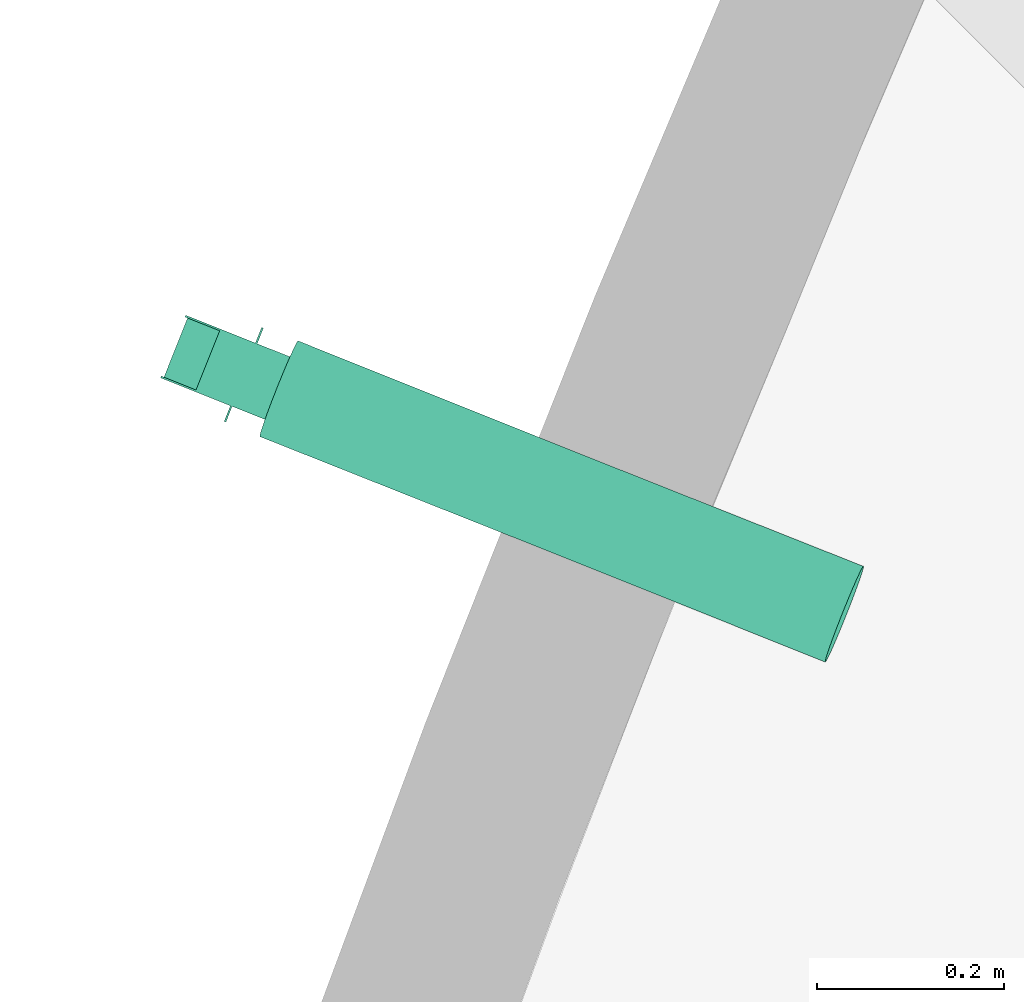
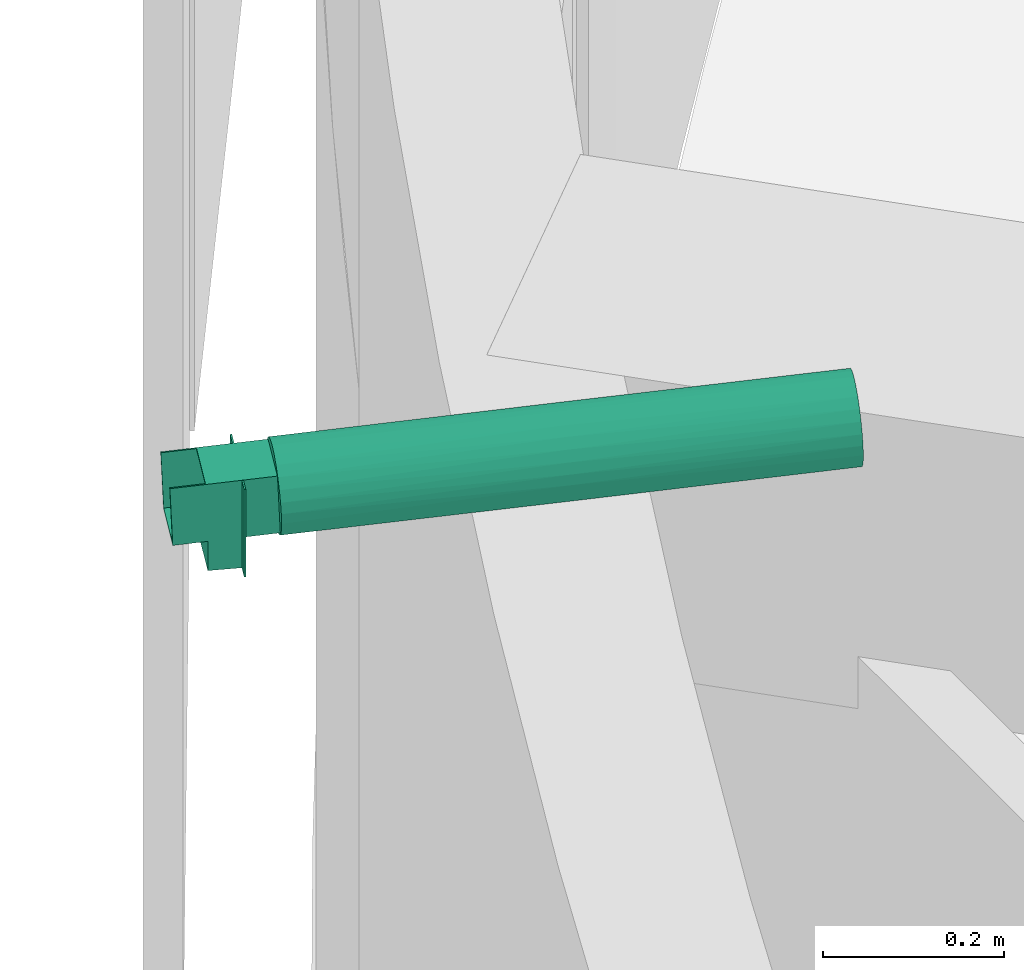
# One storey, part 26 of 26: 1 pipe fitting.
"""IFC4X3_ADD2 building model written with IfcOpenShell, lengths in millimetres."""

from ifc_helpers import new_model, si_unit, direction, frame, origin_with_axes, place, context, subcontext, project, spatial, polygons, source, transform, mapped, element, save


model = new_model("IFC4X3_ADD2")

# Units and contexts
model_context = context("Model", 3, precision=1e-05, world=origin_with_axes(), true_north=direction((0.0, 1.0)))
body_context = subcontext(model_context, "Body", "Model", "MODEL_VIEW")
ifc_project = project(units=[si_unit("LENGTHUNIT", "METRE", prefix="MILLI"), si_unit("AREAUNIT", "SQUARE_METRE"), si_unit("VOLUMEUNIT", "CUBIC_METRE"), si_unit("PLANEANGLEUNIT", "RADIAN"), si_unit("TIMEUNIT", "SECOND"), si_unit("MASSUNIT", "GRAM")], contexts=[model_context])

# Site, building, storey
site_placement = place(None, origin_with_axes())
site = spatial("IfcSite", under=ifc_project, at=site_placement, Name="Site", CompositionType="ELEMENT")
building_placement = place(site_placement, origin_with_axes())
building = spatial("IfcBuilding", under=site, at=building_placement, Name="IFC Building Story")
storey_placement = place(building_placement, frame((0.0, 0.0, 7200.0), z_axis=(0.0, 0.0, 1.0), x_axis=(1.0, 0.0, 0.0)))
storey = spatial("IfcBuildingStorey", under=building, at=storey_placement, Name="020", Elevation=7200.0)

# Pipe fitting
shared_shape = source(origin_with_axes(), body_context, "Body", "Tessellation", [
    polygons([(2.59527223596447, 80.2423912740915, 117.667377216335), (2.59527223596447, 80.2423912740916, 3.79003495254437e-11), (20.5952722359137, 80.2423912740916, 7.30935312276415e-11), (20.5952722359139, 80.2423912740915, 41.0150039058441), (20.5952722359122, 80.2423912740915, 117.667377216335), (2.59527223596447, 82.2423912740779, 117.667377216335), (2.59527223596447, 82.2423912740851, 7.30935312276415e-11), (110.595272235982, 82.2423912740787, 0.0), (110.595272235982, 82.2423912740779, 117.667377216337), (110.595272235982, 80.2423912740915, 117.667377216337), (110.595272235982, 80.2423912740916, 0.0), (92.5952722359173, 82.2423912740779, 117.667377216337), (92.5952722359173, 80.2423912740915, 117.667377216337), (92.5952722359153, 82.2423912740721, 41.0983372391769), (92.5952722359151, 80.2423912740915, 41.0150039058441), (20.5952722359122, 82.2423912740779, 117.667377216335), (20.5952722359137, 82.2423912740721, 41.0983372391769), (20.5952722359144, 42.2423912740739, 1.12618181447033e-10), (20.5952722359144, 42.2423912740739, 39.4316705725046), (92.5952722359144, 42.2423912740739, 39.4316705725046), (92.5952722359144, 42.2423912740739, 1.12618181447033e-10), (92.5952722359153, 80.2423912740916, 7.25520976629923e-11), (22.5952722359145, 82.2423912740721, 41.0983372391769), (22.5952722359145, 82.2423912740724, 1.08286712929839e-10), (22.5952722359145, 44.2423912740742, 9.3668006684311e-11), (90.5952722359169, 44.2423912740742, 9.3668006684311e-11), (90.5952722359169, 82.2423912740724, 1.08286712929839e-10), (90.5952722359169, 82.2423912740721, 41.0983372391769), (90.5952722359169, 44.2423912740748, 39.5150039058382), (22.5952722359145, 44.2423912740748, 39.5150039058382)], [[[4, 5, 1]], [[4, 1, 2]], [[2, 3, 4]], [[6, 7, 2, 1]], [[8, 9, 10, 11]], [[9, 12, 13, 10]], [[13, 12, 14, 15]], [[16, 5, 4, 17]], [[16, 6, 1, 5]], [[18, 19, 4, 3]], [[20, 21, 22, 15]], [[19, 18, 21, 20]], [[17, 23, 24]], [[17, 24, 7]], [[7, 6, 16]], [[7, 16, 17]], [[3, 2, 7]], [[3, 7, 24]], [[22, 21, 26]], [[22, 26, 27]], [[27, 8, 11]], [[27, 11, 22]], [[21, 18, 25]], [[21, 25, 26]], [[18, 3, 24]], [[18, 24, 25]], [[15, 14, 28]], [[4, 19, 30]], [[4, 30, 23]], [[23, 17, 4]], [[19, 20, 29]], [[19, 29, 30]], [[20, 15, 28]], [[20, 28, 29]], [[26, 29, 28, 27]], [[30, 25, 24, 23]], [[29, 26, 25, 30]], [[14, 12, 9]], [[14, 9, 8]], [[8, 27, 14]], [[27, 28, 14]], [[15, 22, 11]], [[11, 10, 13]], [[11, 13, 15]]]),
    polygons([(3.46935179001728, 121.008650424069, 95.458033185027), (1.59527223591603, 121.601263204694, 81.235326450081), (3.46935179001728, 122.193875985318, 67.012619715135), (8.9638750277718, 122.746103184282, 53.7591669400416), (17.7043992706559, 123.220311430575, 42.3781690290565), (29.0952722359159, 123.584184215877, 33.6452221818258), (42.3602247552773, 123.812924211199, 28.1554622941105), (56.5952722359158, 123.89094316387, 26.283007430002), (70.8303197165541, 123.812924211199, 28.1554622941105), (84.0952722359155, 123.584184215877, 33.6452221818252), (95.4861452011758, 123.220311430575, 42.3781690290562), (104.22666944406, 122.746103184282, 53.7591669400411), (109.721192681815, 122.193875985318, 67.0126197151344), (111.595272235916, 121.601263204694, 81.2353264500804), (109.721192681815, 121.008650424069, 95.4580331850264), (104.22666944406, 120.456423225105, 108.71148596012), (95.4861452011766, 119.982214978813, 120.092483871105), (84.0952722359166, 119.61834219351, 128.825430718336), (70.8303197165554, 119.389602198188, 134.315190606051), (56.595272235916, 119.311583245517, 136.18764547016), (42.3602247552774, 119.389602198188, 134.315190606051), (29.095272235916, 119.61834219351, 128.825430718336), (17.704399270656, 119.982214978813, 120.092483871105), (8.96387502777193, 120.456423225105, 108.711485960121), (29.095272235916, 769.054839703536, 155.885284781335), (42.3602247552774, 768.826099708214, 161.37504466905), (56.5952722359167, 768.748080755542, 163.247499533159), (70.8303197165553, 768.826099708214, 161.37504466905), (84.0952722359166, 769.054839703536, 155.885284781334), (95.4861452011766, 769.418712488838, 147.152337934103), (104.22666944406, 769.892920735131, 135.771340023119), (109.721192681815, 770.445147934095, 122.517887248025), (111.595272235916, 771.037760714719, 108.295180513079), (109.721192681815, 771.630373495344, 94.072473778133), (104.22666944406, 772.182600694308, 80.8190210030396), (95.4861452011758, 772.6568089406, 69.4380230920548), (84.0952722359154, 773.020681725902, 60.7050762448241), (70.8303197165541, 773.249421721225, 55.2153163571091), (56.5952722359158, 773.327440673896, 53.3428614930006), (42.3602247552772, 773.249421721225, 55.2153163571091), (29.0952722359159, 773.020681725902, 60.7050762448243), (17.7043992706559, 772.6568089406, 69.4380230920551), (8.96387502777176, 772.182600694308, 80.8190210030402), (3.46935179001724, 771.630373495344, 94.0724737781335), (1.59527223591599, 771.037760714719, 108.29518051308), (3.46935179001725, 770.445147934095, 122.517887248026), (8.9638750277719, 769.892920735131, 135.771340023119), (17.7043992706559, 769.418712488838, 147.152337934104), (77.6428610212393, 448.434900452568, 43.9959306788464), (67.0575535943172, 483.984405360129, 42.2920262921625), (67.0575535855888, 408.654618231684, 147.238480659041), (77.6428610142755, 444.204123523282, 145.534576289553), (56.5952722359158, 382.618184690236, 37.0633091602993), (56.5952722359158, 514.600199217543, 42.5625597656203), (100.229705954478, 447.713380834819, 61.3124012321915), (111.124739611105, 446.02064877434, 101.937970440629), (56.5952722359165, 510.020839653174, 152.467197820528), (90.0771508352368, 448.136037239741, 51.1686476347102), (107.408646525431, 447.195734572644, 73.7359114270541), (111.124739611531, 446.618375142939, 87.5925365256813), (56.595272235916, 378.038831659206, 146.967947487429), (107.408646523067, 445.443289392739, 115.794595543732), (90.0771508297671, 444.502986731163, 138.361859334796), (100.22970595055, 444.92564313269, 128.218105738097), (23.1133935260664, 444.502988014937, 138.361859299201), (35.5476832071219, 444.204127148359, 145.534576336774), (46.1329905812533, 479.488667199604, 150.1898993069), (12.9608384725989, 444.925643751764, 128.218105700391), (46.132990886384, 413.150363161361, 39.3406078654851), (35.5476834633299, 448.434900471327, 43.9959306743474), (5.78189792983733, 445.443289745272, 115.794595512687), (2.06580485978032, 446.020648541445, 101.937970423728), (2.06580486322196, 446.618375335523, 87.592536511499), (5.78189795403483, 447.195734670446, 73.7359114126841), (12.9608385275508, 447.713380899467, 61.3124012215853), (23.1133936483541, 448.136037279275, 51.1686476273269)], [[[1, 2, 3]], [[1, 3, 4]], [[1, 4, 5]], [[1, 5, 6]], [[1, 6, 7]], [[1, 7, 8]], [[1, 8, 9]], [[1, 9, 10]], [[1, 10, 11]], [[1, 11, 12]], [[1, 12, 13]], [[1, 13, 14]], [[1, 14, 15]], [[1, 15, 16]], [[1, 16, 17]], [[1, 17, 18]], [[1, 18, 19]], [[1, 19, 20]], [[1, 20, 21]], [[1, 21, 22]], [[1, 22, 23]], [[1, 23, 24]], [[25, 26, 27]], [[25, 27, 28]], [[25, 28, 29]], [[25, 29, 30]], [[25, 30, 31]], [[25, 31, 32]], [[25, 32, 33]], [[25, 33, 34]], [[25, 34, 35]], [[25, 35, 36]], [[25, 36, 37]], [[25, 37, 38]], [[25, 38, 39]], [[25, 39, 40]], [[25, 40, 41]], [[25, 41, 42]], [[25, 42, 43]], [[25, 43, 44]], [[25, 44, 45]], [[25, 45, 46]], [[25, 46, 47]], [[25, 47, 48]], [[49, 50, 38]], [[28, 51, 52]], [[50, 53, 54, 39]], [[37, 49, 38]], [[55, 36, 35]], [[14, 56, 15]], [[28, 27, 57]], [[37, 36, 58]], [[9, 50, 49]], [[59, 35, 34]], [[39, 38, 50]], [[53, 50, 9]], [[58, 49, 37]], [[9, 8, 53]], [[59, 55, 35]], [[10, 49, 58]], [[55, 58, 36]], [[11, 58, 55]], [[55, 59, 12]], [[11, 55, 12]], [[60, 14, 13]], [[9, 49, 10]], [[56, 60, 33]], [[51, 57, 61, 20]], [[62, 32, 31]], [[52, 63, 29]], [[18, 52, 19]], [[30, 64, 31]], [[52, 29, 28]], [[16, 64, 17]], [[63, 64, 30]], [[30, 29, 63]], [[28, 57, 51]], [[20, 19, 51]], [[32, 56, 33]], [[15, 56, 62]], [[60, 59, 34]], [[14, 60, 56]], [[59, 60, 13]], [[16, 62, 64]], [[64, 62, 31]], [[17, 64, 63]], [[63, 52, 18]], [[33, 60, 34]], [[62, 56, 32]], [[12, 59, 13]], [[15, 62, 16]], [[17, 63, 18]], [[51, 19, 52]], [[10, 58, 11]], [[65, 66, 25]], [[67, 21, 61]], [[66, 26, 25]], [[67, 26, 66]], [[68, 48, 47]], [[40, 69, 70]], [[67, 61, 57, 27]], [[25, 48, 65]], [[69, 54, 53, 8]], [[71, 47, 46]], [[21, 66, 22]], [[26, 67, 27]], [[21, 20, 61]], [[23, 68, 24]], [[22, 65, 23]], [[22, 66, 65]], [[24, 71, 1]], [[23, 65, 68]], [[68, 71, 24]], [[72, 71, 46]], [[72, 2, 1]], [[68, 65, 48]], [[73, 72, 45]], [[71, 68, 47]], [[74, 44, 43]], [[40, 39, 54]], [[69, 7, 70]], [[42, 75, 43]], [[70, 41, 40]], [[70, 76, 41]], [[6, 70, 7]], [[42, 41, 76]], [[5, 76, 6]], [[8, 7, 69]], [[44, 73, 45]], [[3, 73, 74]], [[45, 72, 46]], [[2, 72, 73]], [[3, 74, 4]], [[4, 74, 75]], [[4, 75, 5]], [[5, 75, 76]], [[76, 70, 6]], [[76, 75, 42]], [[74, 73, 44]], [[75, 74, 43]], [[40, 54, 69]], [[2, 73, 3]], [[21, 67, 66]], [[71, 72, 1]]]),
    polygons([(90.5952722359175, 120.083261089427, 117.667377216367), (22.5952722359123, 120.083261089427, 117.667377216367), (22.5952722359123, 120.000000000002, 119.665643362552), (90.5952722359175, 120.000000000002, 119.665643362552), (90.5952722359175, 40.0166903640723, 114.3312701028), (90.5952722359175, 39.9334292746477, 116.329536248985), (22.5952722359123, 39.9334292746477, 116.329536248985), (22.5952722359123, 40.0166903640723, 114.3312701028)], [[[1, 2, 3, 4]], [[5, 6, 7, 8]], [[2, 1, 5, 8]], [[4, 3, 7, 6]], [[3, 2, 8, 7]], [[1, 4, 6, 5]]]),
    polygons([(92.5952722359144, 0.0, 114.665643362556), (90.5952722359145, 0.0, 114.665643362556), (90.5952722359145, 3.11934390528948, 39.8013896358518), (22.5952722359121, 3.11934390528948, 39.8013896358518), (22.5952722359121, 0.0, 114.665643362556), (20.5952722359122, 0.0, 114.665643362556), (20.5952722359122, 3.20252640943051, 37.8050095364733), (92.5952722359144, 3.20252640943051, 37.8050095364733), (20.5952722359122, 123.202526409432, 42.8050095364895), (92.5952722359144, 123.202526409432, 42.8050095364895), (22.5952722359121, 123.119343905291, 44.801389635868), (22.5952722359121, 120.0, 119.665643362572), (90.5952722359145, 123.119343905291, 44.801389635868), (90.5952722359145, 120.0, 119.665643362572), (92.5952722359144, 120.0, 119.665643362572), (20.5952722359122, 120.0, 119.665643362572)], [[[4, 5, 6]], [[4, 6, 7]], [[7, 8, 3]], [[7, 3, 4]], [[8, 1, 2]], [[8, 2, 3]], [[9, 10, 8, 7]], [[11, 12, 5, 4]], [[13, 11, 4, 3]], [[14, 13, 3, 2]], [[13, 14, 15]], [[13, 15, 10]], [[10, 9, 11]], [[10, 11, 13]], [[9, 16, 12]], [[9, 12, 11]], [[10, 15, 1, 8]], [[16, 9, 7, 6]], [[12, 16, 6, 5]], [[15, 14, 2, 1]]]),
])
pipe_fitting_placement = place(storey_placement, frame((-44632.6345802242, 32099.5747362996, 3670.0), z_axis=(0.0, 0.0, 1.0), x_axis=(-0.3704074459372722, -0.9288693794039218, 0.0)))
element("IfcPipeFitting", 1, at=pipe_fitting_placement, inside=storey, Name="Afwerkstuk spuwer 70 x 70 RVS:Type 1", ObjectType="Afwerkstuk spuwer 70 x 70 RVS:Type 1", PredefinedType="EXIT", context=body_context, shape_type="MappedRepresentation", body=[
    mapped(shared_shape, transform((0.0, 0.0, 0.0))),
])

save(model, "model.ifc")
